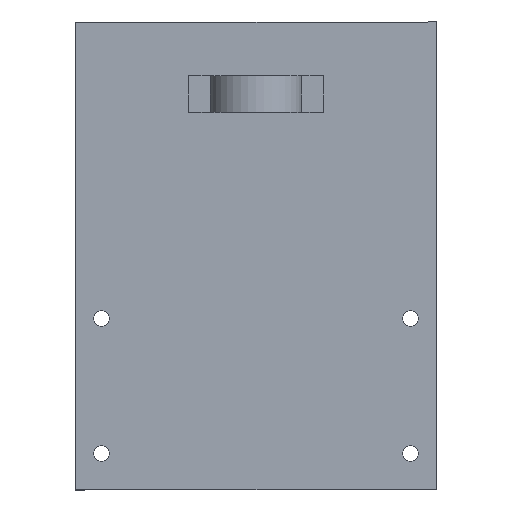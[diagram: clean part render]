
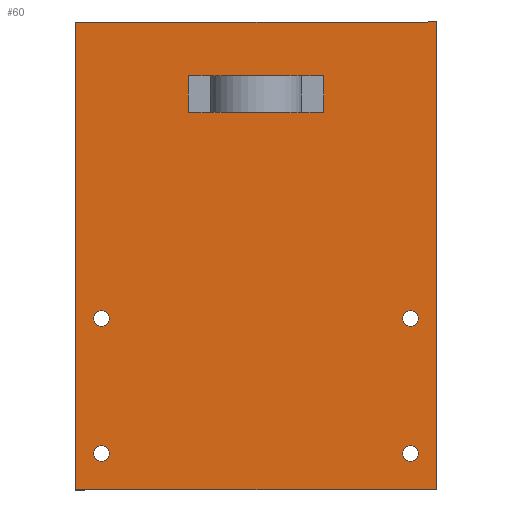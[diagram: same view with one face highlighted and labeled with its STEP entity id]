
A CAD part, top view. The second image highlights one B-rep face of the part: STEP entity #60.
In plain terms, the highlighted planar face has unit normal (0, 0, 1).
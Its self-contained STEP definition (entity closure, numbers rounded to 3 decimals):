
#60=ADVANCED_FACE('',(#122,#124,#126,#128,#130,#132,#134),#136,.F.);
#122=FACE_BOUND('',#123,.T.);
#123=EDGE_LOOP('',(#281,#282,#283,#284));
#124=FACE_BOUND('',#125,.T.);
#125=EDGE_LOOP('',(#285,#286,#287,#288));
#126=FACE_BOUND('',#127,.T.);
#127=EDGE_LOOP('',(#289,#290,#291,#292));
#128=FACE_BOUND('',#129,.T.);
#129=EDGE_LOOP('',(#293));
#130=FACE_BOUND('',#131,.T.);
#131=EDGE_LOOP('',(#294));
#132=FACE_BOUND('',#133,.T.);
#133=EDGE_LOOP('',(#295));
#134=FACE_BOUND('',#135,.T.);
#135=EDGE_LOOP('',(#296));
#136=PLANE('',#137);
#137=AXIS2_PLACEMENT_3D('',#138,#139,#140);
#138=CARTESIAN_POINT('',(0.,0.,-0.226));
#139=DIRECTION('',(0.,0.,-1.));
#140=DIRECTION('',(0.,-1.,0.));
#281=ORIENTED_EDGE('',*,*,#369,.F.);
#282=ORIENTED_EDGE('',*,*,#370,.F.);
#283=ORIENTED_EDGE('',*,*,#371,.F.);
#284=ORIENTED_EDGE('',*,*,#372,.F.);
#285=ORIENTED_EDGE('',*,*,#358,.F.);
#286=ORIENTED_EDGE('',*,*,#366,.F.);
#287=ORIENTED_EDGE('',*,*,#350,.F.);
#288=ORIENTED_EDGE('',*,*,#363,.F.);
#289=ORIENTED_EDGE('',*,*,#354,.F.);
#290=ORIENTED_EDGE('',*,*,#341,.F.);
#291=ORIENTED_EDGE('',*,*,#345,.F.);
#292=ORIENTED_EDGE('',*,*,#368,.F.);
#293=ORIENTED_EDGE('',*,*,#373,.T.);
#294=ORIENTED_EDGE('',*,*,#374,.T.);
#295=ORIENTED_EDGE('',*,*,#375,.T.);
#296=ORIENTED_EDGE('',*,*,#376,.T.);
#341=EDGE_CURVE('',#391,#392,#393,.F.);
#345=EDGE_CURVE('',#399,#391,#400,.F.);
#350=EDGE_CURVE('',#407,#409,#410,.F.);
#354=EDGE_CURVE('',#392,#416,#417,.F.);
#358=EDGE_CURVE('',#422,#424,#425,.F.);
#363=EDGE_CURVE('',#424,#407,#433,.F.);
#366=EDGE_CURVE('',#409,#422,#436,.F.);
#368=EDGE_CURVE('',#416,#399,#438,.F.);
#369=EDGE_CURVE('',#439,#440,#441,.T.);
#370=EDGE_CURVE('',#442,#439,#443,.T.);
#371=EDGE_CURVE('',#444,#442,#445,.T.);
#372=EDGE_CURVE('',#440,#444,#446,.T.);
#373=EDGE_CURVE('',#447,#447,#448,.T.);
#374=EDGE_CURVE('',#449,#449,#450,.T.);
#375=EDGE_CURVE('',#451,#451,#452,.T.);
#376=EDGE_CURVE('',#453,#453,#454,.T.);
#391=VERTEX_POINT('',#477);
#392=VERTEX_POINT('',#478);
#393=LINE('',#479,#480);
#399=VERTEX_POINT('',#493);
#400=LINE('',#494,#495);
#407=VERTEX_POINT('',#510);
#409=VERTEX_POINT('',#514);
#410=LINE('',#515,#516);
#416=VERTEX_POINT('',#530);
#417=LINE('',#531,#532);
#422=VERTEX_POINT('',#543);
#424=VERTEX_POINT('',#547);
#425=LINE('',#548,#549);
#433=LINE('',#567,#568);
#436=LINE('',#576,#577);
#438=LINE('',#582,#583);
#439=VERTEX_POINT('',#585);
#440=VERTEX_POINT('',#586);
#441=LINE('',#587,#588);
#442=VERTEX_POINT('',#590);
#443=LINE('',#591,#592);
#444=VERTEX_POINT('',#594);
#445=LINE('',#595,#596);
#446=LINE('',#598,#599);
#447=VERTEX_POINT('',#601);
#448=CIRCLE('',#602,1.5);
#449=VERTEX_POINT('',#606);
#450=CIRCLE('',#607,1.5);
#451=VERTEX_POINT('',#611);
#452=CIRCLE('',#612,1.5);
#453=VERTEX_POINT('',#616);
#454=CIRCLE('',#617,1.5);
#477=CARTESIAN_POINT('',(-15.945,35.061,-0.226));
#478=CARTESIAN_POINT('',(-15.945,42.061,-0.226));
#479=CARTESIAN_POINT('',(-15.945,42.061,-0.226));
#480=VECTOR('',#481,1.);
#481=DIRECTION('',(0.,-1.,0.));
#493=CARTESIAN_POINT('',(-22.945,35.061,-0.226));
#494=CARTESIAN_POINT('',(-15.945,35.061,-0.226));
#495=VECTOR('',#496,1.);
#496=DIRECTION('',(-1.,0.,0.));
#510=CARTESIAN_POINT('',(-41.945,35.061,-0.226));
#514=CARTESIAN_POINT('',(-34.945,35.061,-0.226));
#515=CARTESIAN_POINT('',(-34.945,35.061,-0.226));
#516=VECTOR('',#517,1.);
#517=DIRECTION('',(-1.,0.,0.));
#530=CARTESIAN_POINT('',(-22.945,42.061,-0.226));
#531=CARTESIAN_POINT('',(-22.945,42.061,-0.226));
#532=VECTOR('',#533,1.);
#533=DIRECTION('',(1.,0.,0.));
#543=CARTESIAN_POINT('',(-34.945,42.061,-0.226));
#547=CARTESIAN_POINT('',(-41.945,42.061,-0.226));
#548=CARTESIAN_POINT('',(-41.945,42.061,-0.226));
#549=VECTOR('',#550,1.);
#550=DIRECTION('',(1.,0.,0.));
#567=CARTESIAN_POINT('',(-41.945,35.061,-0.226));
#568=VECTOR('',#569,1.);
#569=DIRECTION('',(0.,1.,0.));
#576=CARTESIAN_POINT('',(-34.945,42.061,-0.226));
#577=VECTOR('',#578,1.);
#578=DIRECTION('',(0.,-1.,0.));
#582=CARTESIAN_POINT('',(-22.945,35.061,-0.226));
#583=VECTOR('',#584,1.);
#584=DIRECTION('',(0.,1.,0.));
#585=CARTESIAN_POINT('',(5.755,52.561,-0.226));
#586=CARTESIAN_POINT('',(5.755,-37.439,-0.226));
#587=CARTESIAN_POINT('',(5.755,52.561,-0.226));
#588=VECTOR('',#589,1.);
#589=DIRECTION('',(0.,-1.,0.));
#590=CARTESIAN_POINT('',(-63.645,52.561,-0.226));
#591=CARTESIAN_POINT('',(-63.645,52.561,-0.226));
#592=VECTOR('',#593,1.);
#593=DIRECTION('',(1.,0.,0.));
#594=CARTESIAN_POINT('',(-63.645,-37.439,-0.226));
#595=CARTESIAN_POINT('',(-63.645,-37.439,-0.226));
#596=VECTOR('',#597,1.);
#597=DIRECTION('',(0.,1.,0.));
#598=CARTESIAN_POINT('',(5.755,-37.439,-0.226));
#599=VECTOR('',#600,1.);
#600=DIRECTION('',(-1.,0.,0.));
#601=CARTESIAN_POINT('',(-0.745,-4.439,-0.226));
#602=AXIS2_PLACEMENT_3D('',#603,#604,#605);
#603=CARTESIAN_POINT('',(0.755,-4.439,-0.226));
#604=DIRECTION('',(0.,0.,-1.));
#605=DIRECTION('',(-1.,0.,0.));
#606=CARTESIAN_POINT('',(-0.745,-30.439,-0.226));
#607=AXIS2_PLACEMENT_3D('',#608,#609,#610);
#608=CARTESIAN_POINT('',(0.755,-30.439,-0.226));
#609=DIRECTION('',(0.,0.,-1.));
#610=DIRECTION('',(-1.,0.,0.));
#611=CARTESIAN_POINT('',(-60.145,-30.439,-0.226));
#612=AXIS2_PLACEMENT_3D('',#613,#614,#615);
#613=CARTESIAN_POINT('',(-58.645,-30.439,-0.226));
#614=DIRECTION('',(0.,0.,-1.));
#615=DIRECTION('',(-1.,0.,0.));
#616=CARTESIAN_POINT('',(-60.145,-4.439,-0.226));
#617=AXIS2_PLACEMENT_3D('',#618,#619,#620);
#618=CARTESIAN_POINT('',(-58.645,-4.439,-0.226));
#619=DIRECTION('',(0.,0.,-1.));
#620=DIRECTION('',(-1.,0.,0.));
